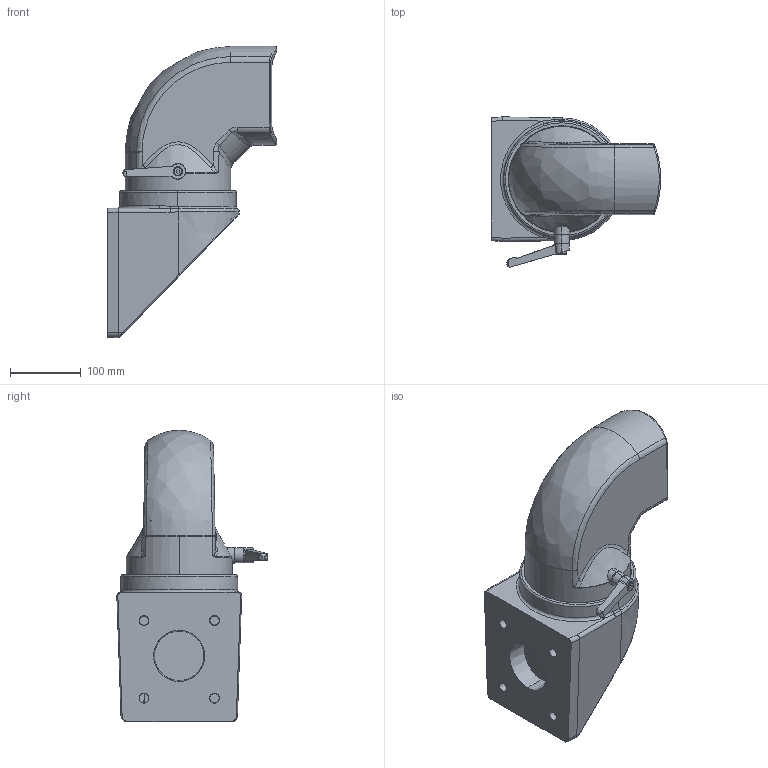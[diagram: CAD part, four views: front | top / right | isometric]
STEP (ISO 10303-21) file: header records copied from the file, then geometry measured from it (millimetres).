
FILE_DESCRIPTION((''),'2;1');
FILE_NAME('SCE-SAH230WH','2018-12-05T13:12:37',('dougp'),('SAGINAW CONTROL & ENGINEERING'),'CREO PARAMETRIC BY PTC INC, 2017260','CREO PARAMETRIC BY PTC INC, 2017260','');
FILE_SCHEMA(('AUTOMOTIVE_DESIGN { 1 0 10303 214 1 1 1 1 }'));
Length unit declared in the file: inch
Products named in the file (1): SCE-SAH230WH
Bounding box: 239.99 x 213.2 x 413.04 mm (x, y, z)
Volume: 6477786.9 mm3; surface area: 311905.6 mm2
Topology: 1 solids, 16 shells, 307 faces, 698 edges, 440 vertices
Faces by surface type: plane 80, bspline 75, cylinder 64, cone 48, torus 36, extrusion 4
Entity records: 14821 total; most frequent: CARTESIAN_POINT 8423, ORIENTED_EDGE 1384, DIRECTION 1104, EDGE_CURVE 692, AXIS2_PLACEMENT_3D 446, VERTEX_POINT 440, EDGE_LOOP 330, FACE_OUTER_BOUND 307
